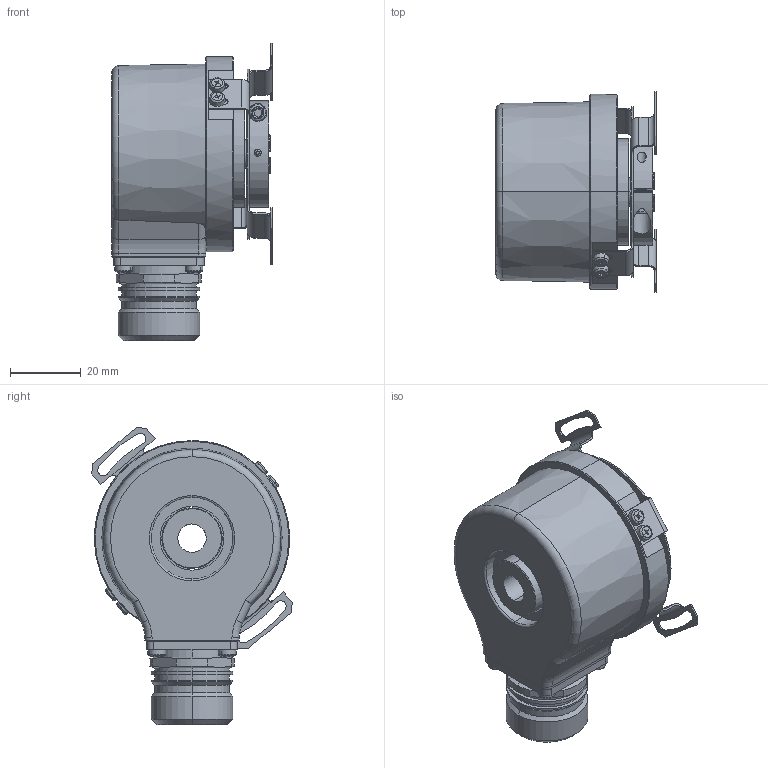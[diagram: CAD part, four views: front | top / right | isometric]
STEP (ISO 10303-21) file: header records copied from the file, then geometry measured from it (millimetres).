
FILE_DESCRIPTION (( 'STEP AP214' ), '1' );
FILE_NAME ('5020.D9X4.XXXX.STEP', '2011-01-11T07:48:58', ( 'admin' ), ( 'Fritz Kübler GmbH' ), 'SwSTEP 2.0', 'SolidWorks 2009', '' );
FILE_SCHEMA (( 'AUTOMOTIVE_DESIGN' ));
Length unit declared in the file: millimetre
Products named in the file (1): 5020.D9X4.XXXX
Bounding box: 45.2 x 56.46 x 83.69 mm (x, y, z)
Surface area: 23005.6 mm2 (no closed solid volume)
Topology: 0 solids, 40 shells, 496 faces, 1386 edges, 908 vertices
Faces by surface type: plane 206, cylinder 179, torus 42, cone 33, sphere 32, bspline 4
Entity records: 21715 total; most frequent: CARTESIAN_POINT 3290, DIRECTION 2940, ORIENTED_EDGE 2406, EDGE_CURVE 1362, AXIS2_PLACEMENT_3D 1148, VERTEX_POINT 908, CIRCLE 655, VECTOR 644
